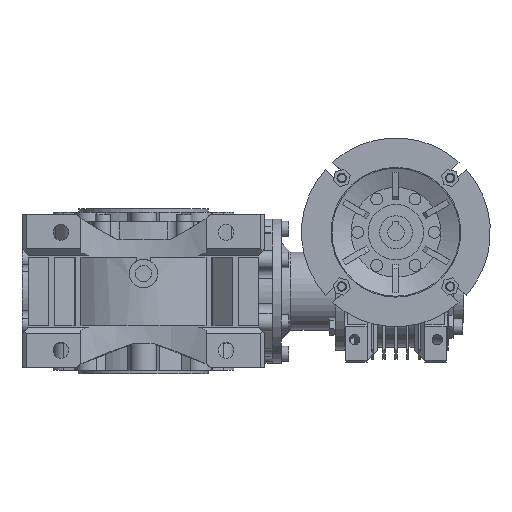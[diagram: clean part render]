
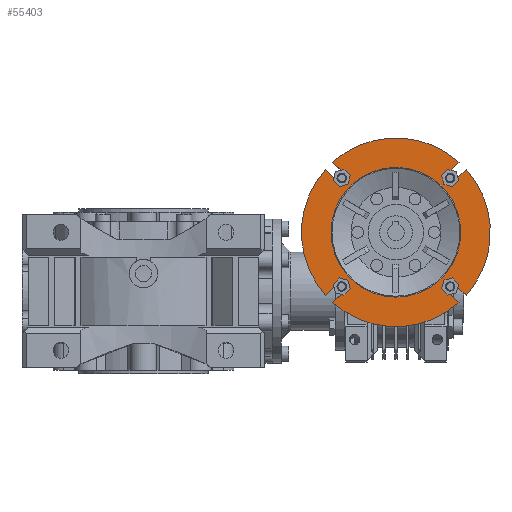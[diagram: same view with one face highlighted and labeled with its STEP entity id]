
A CAD part, front view. The second image highlights one B-rep face of the part: STEP entity #55403.
In plain terms, the highlighted planar face has unit normal (0, -1, 0) as drawn and (1, 0, 0) by its records, which use the part's own axes.
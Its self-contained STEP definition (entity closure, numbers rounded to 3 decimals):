
#4873=LINE('',#84005,#8363);
#4874=LINE('',#84006,#8364);
#4875=LINE('',#84010,#8365);
#4876=LINE('',#84011,#8366);
#4877=LINE('',#84015,#8367);
#4878=LINE('',#84016,#8368);
#4879=LINE('',#84020,#8369);
#4880=LINE('',#84021,#8370);
#8363=VECTOR('',#70693,1000.);
#8364=VECTOR('',#70694,1000.);
#8365=VECTOR('',#70697,1000.);
#8366=VECTOR('',#70698,1000.);
#8367=VECTOR('',#70701,1000.);
#8368=VECTOR('',#70702,1000.);
#8369=VECTOR('',#70705,1000.);
#8370=VECTOR('',#70706,1000.);
#19330=ORIENTED_EDGE('',*,*,#25450,.F.);
#19331=ORIENTED_EDGE('',*,*,#25451,.F.);
#19332=ORIENTED_EDGE('',*,*,#25452,.T.);
#19333=ORIENTED_EDGE('',*,*,#25264,.T.);
#19334=ORIENTED_EDGE('',*,*,#25453,.T.);
#19335=ORIENTED_EDGE('',*,*,#25454,.F.);
#19336=ORIENTED_EDGE('',*,*,#25455,.T.);
#19337=ORIENTED_EDGE('',*,*,#25274,.T.);
#19338=ORIENTED_EDGE('',*,*,#25456,.T.);
#19339=ORIENTED_EDGE('',*,*,#25457,.F.);
#19340=ORIENTED_EDGE('',*,*,#25458,.T.);
#19341=ORIENTED_EDGE('',*,*,#25270,.T.);
#19342=ORIENTED_EDGE('',*,*,#25459,.T.);
#19343=ORIENTED_EDGE('',*,*,#25460,.F.);
#19344=ORIENTED_EDGE('',*,*,#25461,.T.);
#19345=ORIENTED_EDGE('',*,*,#25448,.T.);
#19346=ORIENTED_EDGE('',*,*,#25462,.T.);
#25264=EDGE_CURVE('',#29316,#29317,#31171,.T.);
#25270=EDGE_CURVE('',#29323,#29322,#31174,.T.);
#25274=EDGE_CURVE('',#29327,#29326,#31176,.T.);
#25448=EDGE_CURVE('',#29468,#29467,#31232,.T.);
#25450=EDGE_CURVE('',#29469,#29469,#31233,.T.);
#25451=EDGE_CURVE('',#29470,#29471,#31234,.F.);
#25452=EDGE_CURVE('',#29470,#29316,#4873,.T.);
#25453=EDGE_CURVE('',#29317,#29472,#4874,.T.);
#25454=EDGE_CURVE('',#29473,#29472,#31235,.F.);
#25455=EDGE_CURVE('',#29473,#29327,#4875,.T.);
#25456=EDGE_CURVE('',#29326,#29474,#4876,.T.);
#25457=EDGE_CURVE('',#29475,#29474,#31236,.F.);
#25458=EDGE_CURVE('',#29475,#29323,#4877,.T.);
#25459=EDGE_CURVE('',#29322,#29476,#4878,.T.);
#25460=EDGE_CURVE('',#29477,#29476,#31237,.F.);
#25461=EDGE_CURVE('',#29477,#29468,#4879,.T.);
#25462=EDGE_CURVE('',#29467,#29471,#4880,.T.);
#29316=VERTEX_POINT('',#83489);
#29317=VERTEX_POINT('',#83490);
#29322=VERTEX_POINT('',#83501);
#29323=VERTEX_POINT('',#83503);
#29326=VERTEX_POINT('',#83510);
#29327=VERTEX_POINT('',#83512);
#29467=VERTEX_POINT('',#83995);
#29468=VERTEX_POINT('',#83997);
#29469=VERTEX_POINT('',#84001);
#29470=VERTEX_POINT('',#84003);
#29471=VERTEX_POINT('',#84004);
#29472=VERTEX_POINT('',#84007);
#29473=VERTEX_POINT('',#84009);
#29474=VERTEX_POINT('',#84012);
#29475=VERTEX_POINT('',#84014);
#29476=VERTEX_POINT('',#84017);
#29477=VERTEX_POINT('',#84019);
#31171=CIRCLE('',#59366,80.03);
#31174=CIRCLE('',#59370,80.03);
#31176=CIRCLE('',#59373,80.03);
#31232=CIRCLE('',#59455,80.03);
#31233=CIRCLE('',#59457,55.);
#31234=CIRCLE('',#59458,4.27);
#31235=CIRCLE('',#59459,4.27);
#31236=CIRCLE('',#59460,4.27);
#31237=CIRCLE('',#59461,4.27);
#33787=EDGE_LOOP('',(#19330));
#33788=EDGE_LOOP('',(#19331,#19332,#19333,#19334,#19335,#19336,#19337,#19338,
#19339,#19340,#19341,#19342,#19343,#19344,#19345,#19346));
#36513=FACE_BOUND('',#33787,.T.);
#36514=FACE_BOUND('',#33788,.T.);
#37960=PLANE('',#59456);
#55403=ADVANCED_FACE('',(#36513,#36514),#37960,.F.);
#59366=AXIS2_PLACEMENT_3D('',#83488,#70431,#70432);
#59370=AXIS2_PLACEMENT_3D('',#83502,#70442,#70443);
#59373=AXIS2_PLACEMENT_3D('',#83511,#70450,#70451);
#59455=AXIS2_PLACEMENT_3D('',#83996,#70684,#70685);
#59456=AXIS2_PLACEMENT_3D('',#83999,#70687,#70688);
#59457=AXIS2_PLACEMENT_3D('',#84000,#70689,#70690);
#59458=AXIS2_PLACEMENT_3D('',#84002,#70691,#70692);
#59459=AXIS2_PLACEMENT_3D('',#84008,#70695,#70696);
#59460=AXIS2_PLACEMENT_3D('',#84013,#70699,#70700);
#59461=AXIS2_PLACEMENT_3D('',#84018,#70703,#70704);
#70431=DIRECTION('',(1.,0.,0.));
#70432=DIRECTION('',(0.,0.,-1.));
#70442=DIRECTION('',(1.,0.,0.));
#70443=DIRECTION('',(0.,0.,-1.));
#70450=DIRECTION('',(1.,0.,0.));
#70451=DIRECTION('',(0.,0.,-1.));
#70684=DIRECTION('',(1.,0.,0.));
#70685=DIRECTION('',(0.,0.,-1.));
#70687=DIRECTION('',(-1.,0.,0.));
#70688=DIRECTION('',(0.,0.,1.));
#70689=DIRECTION('',(1.,0.,0.));
#70690=DIRECTION('',(0.,0.,-1.));
#70691=DIRECTION('',(-1.,0.,0.));
#70692=DIRECTION('',(0.,0.,1.));
#70693=DIRECTION('',(0.,0.707,0.707));
#70694=DIRECTION('',(0.,0.707,-0.707));
#70695=DIRECTION('',(-1.,0.,0.));
#70696=DIRECTION('',(0.,0.,1.));
#70697=DIRECTION('',(0.,-0.707,0.707));
#70698=DIRECTION('',(0.,0.707,0.707));
#70699=DIRECTION('',(-1.,0.,0.));
#70700=DIRECTION('',(0.,0.,1.));
#70701=DIRECTION('',(0.,-0.707,-0.707));
#70702=DIRECTION('',(0.,-0.707,0.707));
#70703=DIRECTION('',(-1.,0.,0.));
#70704=DIRECTION('',(0.,0.,1.));
#70705=DIRECTION('',(0.,0.707,-0.707));
#70706=DIRECTION('',(0.,-0.707,-0.707));
#83488=CARTESIAN_POINT('',(26.,0.,0.));
#83489=CARTESIAN_POINT('',(26.,53.49,59.528));
#83490=CARTESIAN_POINT('',(26.,-53.49,59.528));
#83501=CARTESIAN_POINT('',(26.,53.49,-59.528));
#83502=CARTESIAN_POINT('',(26.,0.,0.));
#83503=CARTESIAN_POINT('',(26.,-53.49,-59.528));
#83510=CARTESIAN_POINT('',(26.,-59.528,-53.49));
#83511=CARTESIAN_POINT('',(26.,0.,0.));
#83512=CARTESIAN_POINT('',(26.,-59.528,53.49));
#83995=CARTESIAN_POINT('',(26.,59.528,53.49));
#83996=CARTESIAN_POINT('',(26.,0.,0.));
#83997=CARTESIAN_POINT('',(26.,59.528,-53.49));
#83999=CARTESIAN_POINT('',(26.,80.03,0.));
#84000=CARTESIAN_POINT('',(26.,0.,0.));
#84001=CARTESIAN_POINT('',(26.,0.,-55.));
#84002=CARTESIAN_POINT('',(26.,45.962,45.962));
#84003=CARTESIAN_POINT('',(26.,42.943,48.981));
#84004=CARTESIAN_POINT('',(26.,48.981,42.943));
#84005=CARTESIAN_POINT('',(26.,36.996,43.034));
#84006=CARTESIAN_POINT('',(26.,43.034,-36.996));
#84007=CARTESIAN_POINT('',(26.,-42.943,48.981));
#84008=CARTESIAN_POINT('',(26.,-45.962,45.962));
#84009=CARTESIAN_POINT('',(26.,-48.981,42.943));
#84010=CARTESIAN_POINT('',(26.,36.996,-43.034));
#84011=CARTESIAN_POINT('',(26.,36.996,43.034));
#84012=CARTESIAN_POINT('',(26.,-48.981,-42.943));
#84013=CARTESIAN_POINT('',(26.,-45.962,-45.962));
#84014=CARTESIAN_POINT('',(26.,-42.943,-48.981));
#84015=CARTESIAN_POINT('',(26.,43.034,36.996));
#84016=CARTESIAN_POINT('',(26.,36.996,-43.034));
#84017=CARTESIAN_POINT('',(26.,42.943,-48.981));
#84018=CARTESIAN_POINT('',(26.,45.962,-45.962));
#84019=CARTESIAN_POINT('',(26.,48.981,-42.943));
#84020=CARTESIAN_POINT('',(26.,43.034,-36.996));
#84021=CARTESIAN_POINT('',(26.,43.034,36.996));
